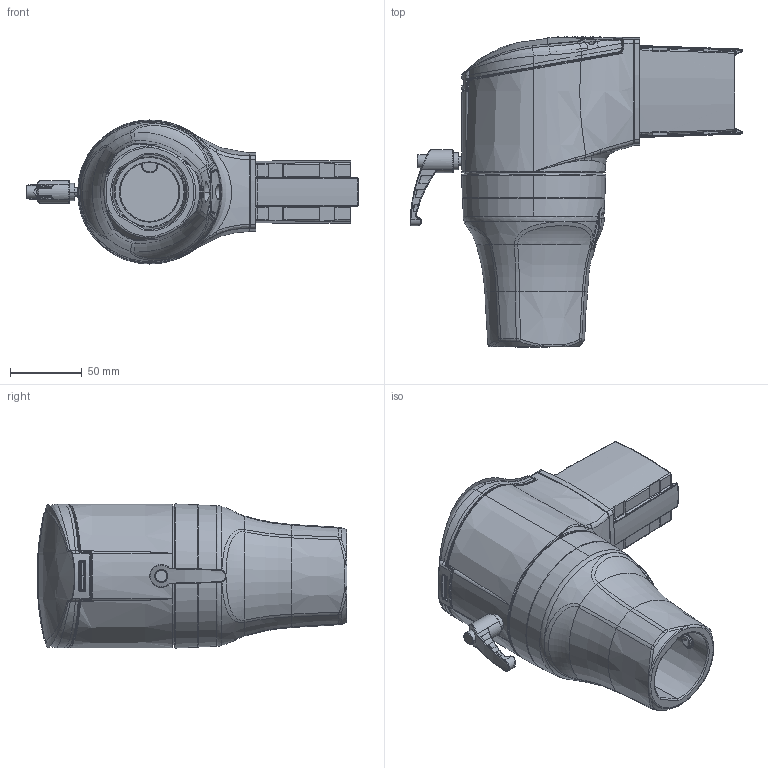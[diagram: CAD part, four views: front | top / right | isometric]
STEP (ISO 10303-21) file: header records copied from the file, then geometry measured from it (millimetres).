
FILE_DESCRIPTION((''),'2;1');
FILE_NAME('1014800008_ASM','2019-10-25T10:19:53',('Stephanie.Hoppe'),(''),'CREO PARAMETRIC BY PTC INC, 2017260','CREO PARAMETRIC BY PTC INC, 2017260','');
FILE_SCHEMA(('AUTOMOTIVE_DESIGN { 1 0 10303 214 1 1 1 1 }'));
Length unit declared in the file: millimetre
Products named in the file (26): 9324210000_AF0; 9620435000_ASM; 9231806000; 9371072000; 9411111000_01; 9324250000_AF0; 9261104000; 9620483000_ASM; 9371073000; 9502365000; 9263051000; 9231799000_AF12; 9324208000; 9261367000; 9324211000_AF0; 9261441000; 9620447000_ASM; 923-CS-3000NEXT-ZG_DE-SCHAUM; 9620459000_ASM; 9261334000; 9222005000; 9251096000; 9231797000_AF27; 9231748000; 9263045000; 1014800008_ASM
Assembly tree (27 placements, depth 4):
  1014800008_ASM
    9620435000_ASM
      9324210000_AF0
    9231806000
    9371072000
    9411111000_01
    9620483000_ASM
      9324250000_AF0
      9261104000
    9371073000
    9502365000
    9263051000
    9231799000_AF12
    9324208000
    9261367000
    9620459000_ASM
      9620447000_ASM
        9324211000_AF0
        9261441000
      923-CS-3000NEXT-ZG_DE-SCHAUM
    9261334000  x2
    9222005000
    9251096000
    9231797000_AF27
    9231748000
    9263045000  x2
Bounding box: 231 x 215.65 x 100.26 mm (x, y, z)
Volume: 903822.4 mm3; surface area: 310187.3 mm2
Topology: 24 solids, 53 shells, 2199 faces, 5267 edges, 3167 vertices
Faces by surface type: bspline 681, cylinder 647, plane 488, cone 201, torus 142, sphere 37, extrusion 3
Entity records: 136880 total; most frequent: CARTESIAN_POINT 58840, ORIENTED_EDGE 10114, DIRECTION 8405, PRESENTATION_STYLE_ASSIGNMENT 6226, STYLED_ITEM 6223, EDGE_CURVE 5145, CURVE_STYLE 5107, AXIS2_PLACEMENT_3D 3303
